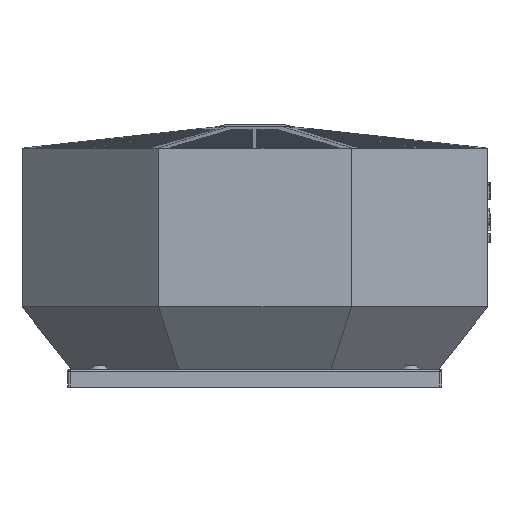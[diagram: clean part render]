
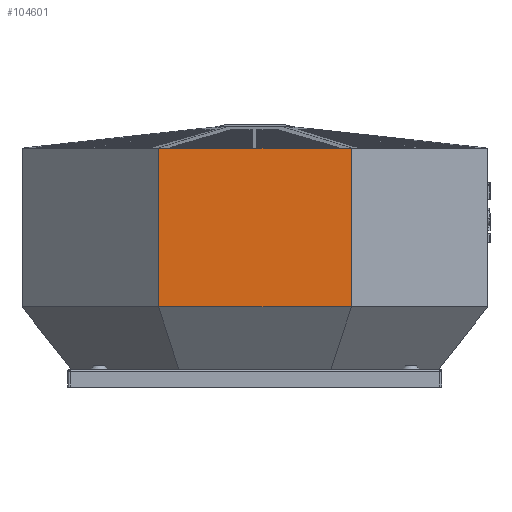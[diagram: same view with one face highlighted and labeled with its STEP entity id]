
A CAD part, left-side view. The second image highlights one B-rep face of the part: STEP entity #104601.
In plain terms, the highlighted planar face has unit normal (-1, 0, 0).
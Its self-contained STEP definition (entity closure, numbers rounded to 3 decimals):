
#12701=FACE_OUTER_BOUND('',#18662,.T.);
#18662=EDGE_LOOP('',(#91111,#91112,#91113,#91114));
#20318=LINE('',#152953,#29787);
#28133=LINE('',#176384,#37602);
#28137=LINE('',#176391,#37606);
#28152=LINE('',#176423,#37621);
#29787=VECTOR('',#117171,10.);
#37602=VECTOR('',#141642,10.);
#37606=VECTOR('',#141648,10.);
#37621=VECTOR('',#141681,10.);
#40116=VERTEX_POINT('',#151923);
#40629=VERTEX_POINT('',#152951);
#47917=VERTEX_POINT('',#176383);
#47919=VERTEX_POINT('',#176389);
#50874=EDGE_CURVE('',#40116,#40629,#20318,.T.);
#62329=EDGE_CURVE('',#47917,#40116,#28133,.T.);
#62333=EDGE_CURVE('',#47919,#40629,#28137,.T.);
#62348=EDGE_CURVE('',#47919,#47917,#28152,.T.);
#91111=ORIENTED_EDGE('',*,*,#50874,.T.);
#91112=ORIENTED_EDGE('',*,*,#62333,.F.);
#91113=ORIENTED_EDGE('',*,*,#62348,.T.);
#91114=ORIENTED_EDGE('',*,*,#62329,.T.);
#94411=PLANE('',#113821);
#104601=ADVANCED_FACE('',(#12701),#94411,.T.);
#113821=AXIS2_PLACEMENT_3D('',#176431,#141692,#141693);
#117171=DIRECTION('',(0.,1.,0.));
#141642=DIRECTION('',(0.,0.,1.));
#141648=DIRECTION('',(0.,0.,1.));
#141681=DIRECTION('',(0.,-1.,0.));
#141692=DIRECTION('center_axis',(-1.,0.,0.));
#141693=DIRECTION('ref_axis',(0.,-1.,0.));
#151923=CARTESIAN_POINT('',(608.329,1080.689,557.5));
#152951=CARTESIAN_POINT('',(608.329,1545.023,557.5));
#152953=CARTESIAN_POINT('',(608.329,1709.189,557.5));
#176383=CARTESIAN_POINT('',(608.329,1080.689,175.5));
#176384=CARTESIAN_POINT('',(608.329,1080.689,25.5));
#176389=CARTESIAN_POINT('',(608.329,1545.023,175.5));
#176391=CARTESIAN_POINT('',(608.329,1545.023,25.5));
#176423=CARTESIAN_POINT('',(608.329,1709.189,175.5));
#176431=CARTESIAN_POINT('Origin',(608.329,1545.023,25.5));
